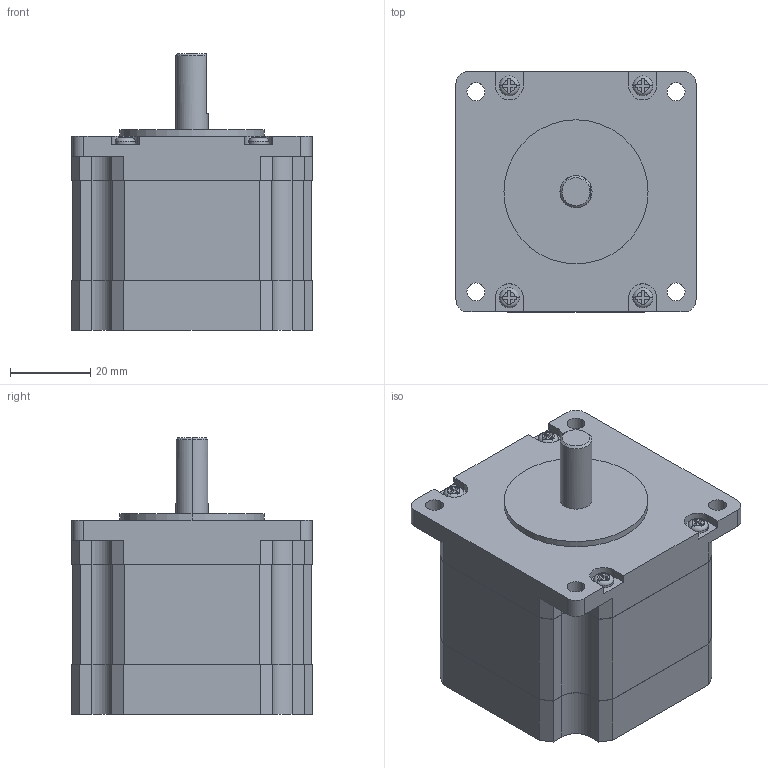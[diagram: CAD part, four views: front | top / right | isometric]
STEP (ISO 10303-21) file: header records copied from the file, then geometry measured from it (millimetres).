
FILE_DESCRIPTION (( 'STEP AP214' ), '1' );
FILE_NAME ('TS3624N1.STEP', '2011-09-15T08:59:15', ( '' ), ( '' ), 'SwSTEP 2.0', 'SolidWorks 2010', '' );
FILE_SCHEMA (( 'AUTOMOTIVE_DESIGN' ));
Length unit declared in the file: millimetre
Products named in the file (1): TS3624N1
Bounding box: 60 x 60 x 69.1 mm (x, y, z)
Volume: 158490.5 mm3; surface area: 18975.2 mm2
Topology: 1 solids, 1 shells, 206 faces, 574 edges, 378 vertices
Faces by surface type: plane 136, cylinder 60, torus 8, cone 2
Entity records: 7016 total; most frequent: CARTESIAN_POINT 1331, ORIENTED_EDGE 1148, DIRECTION 1106, EDGE_CURVE 574, VECTOR 388, LINE 388, VERTEX_POINT 378, AXIS2_PLACEMENT_3D 359
